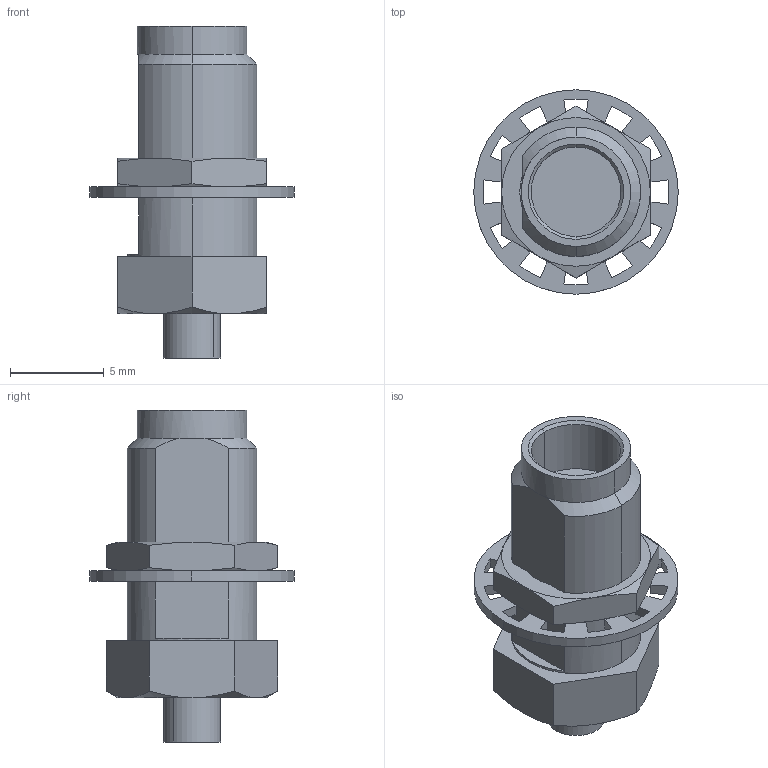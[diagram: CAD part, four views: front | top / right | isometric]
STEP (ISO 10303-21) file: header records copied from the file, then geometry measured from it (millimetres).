
FILE_DESCRIPTION (( 'STEP AP214' ), '1' );
FILE_NAME ('SF1644-6001.STEP', '2015-06-01T17:20:27', ( 'image' ), ( '' ), 'SwSTEP 2.0', 'SolidWorks 2014', '' );
FILE_SCHEMA (( 'AUTOMOTIVE_DESIGN' ));
Length unit declared in the file: inch
Products named in the file (1): SF1644-6001
Bounding box: 10.92 x 10.92 x 17.73 mm (x, y, z)
Volume: 583.2 mm3; surface area: 691.9 mm2
Topology: 2 solids, 2 shells, 115 faces, 293 edges, 186 vertices
Faces by surface type: plane 49, cylinder 41, cone 25
Entity records: 5076 total; most frequent: CARTESIAN_POINT 735, DIRECTION 595, ORIENTED_EDGE 586, EDGE_CURVE 293, AXIS2_PLACEMENT_3D 224, VERTEX_POINT 186, VECTOR 147, LINE 147
